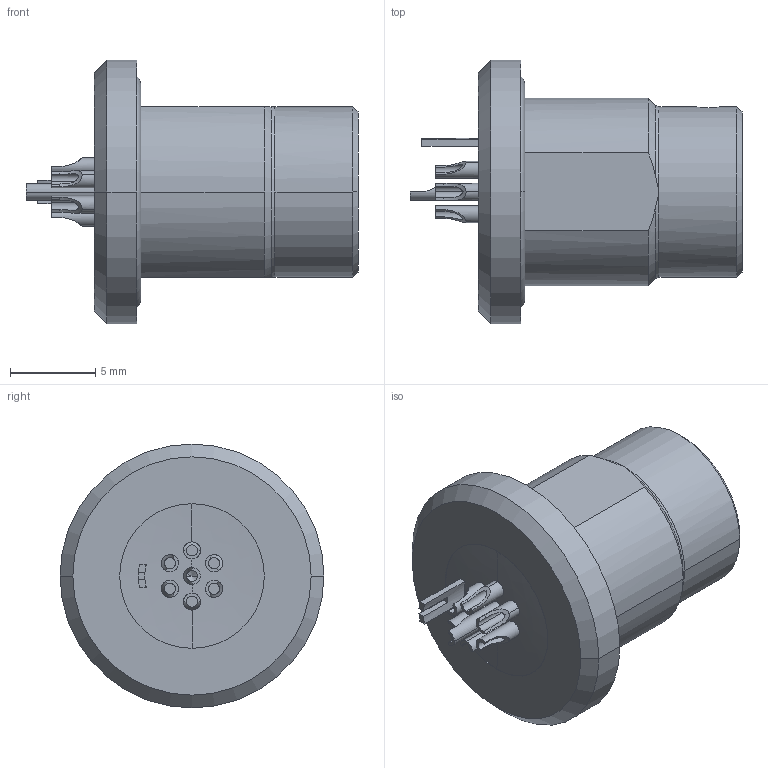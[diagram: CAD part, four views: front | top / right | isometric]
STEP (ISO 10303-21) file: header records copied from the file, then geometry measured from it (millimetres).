
FILE_DESCRIPTION((''),'2;1');
FILE_NAME('GK0Y_R-P07WCD0-000L_WITHOUT-HEX','2020-10-13T10:36:35',('EUnterhaslberger'),(''),'CREO PARAMETRIC BY PTC INC, 2018300','CREO PARAMETRIC BY PTC INC, 2018300','');
FILE_SCHEMA(('AP242_MANAGED_MODEL_BASED_3D_ENGINEERING_MIM_LF { 1 0 10303 442 1 1 4 }'));
Length unit declared in the file: millimetre
Products named in the file (1): GK0Y_R-P07WCD0-000L_WITHOUT-HEX
Bounding box: 19.5 x 15.5 x 15.5 mm (x, y, z)
Volume: 1258.9 mm3; surface area: 1747.3 mm2
Topology: 2 solids, 2 shells, 213 faces, 579 edges, 386 vertices
Faces by surface type: cylinder 75, plane 72, cone 32, torus 26, bspline 8
Entity records: 8976 total; most frequent: CARTESIAN_POINT 2183, ORIENTED_EDGE 1154, DIRECTION 1120, EDGE_CURVE 577, AXIS2_PLACEMENT_3D 440, VERTEX_POINT 386, VECTOR 240, LINE 240
